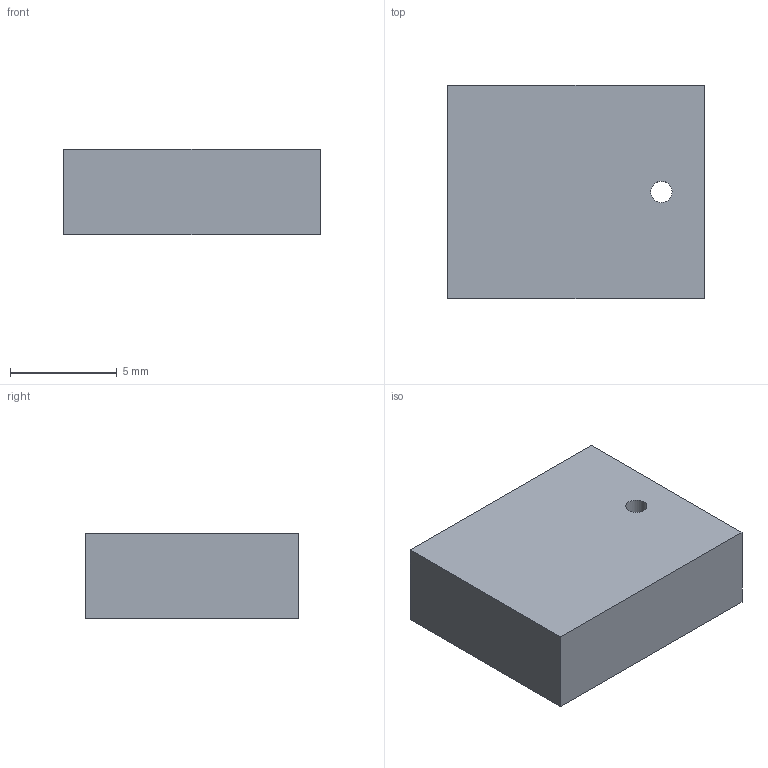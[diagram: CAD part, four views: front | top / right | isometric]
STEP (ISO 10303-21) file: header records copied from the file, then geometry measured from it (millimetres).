
FILE_DESCRIPTION(('Open CASCADE Model'),'2;1');
FILE_NAME('Open CASCADE Shape Model','2000-01-01T00:00:00',('Author'),( 'Open CASCADE'),'Open CASCADE STEP processor 7.9','Open CASCADE 7.9' ,'Unknown');
FILE_SCHEMA(('AUTOMOTIVE_DESIGN { 1 0 10303 214 1 1 1 1 }'));
Length unit declared in the file: millimetre
Products named in the file (1): Open CASCADE STEP translator 7.9 1
Bounding box: 12 x 10 x 4 mm (x, y, z)
Volume: 476.9 mm3; surface area: 427 mm2
Topology: 1 solids, 1 shells, 7 faces, 15 edges, 10 vertices
Faces by surface type: plane 6, cylinder 1
Full cylindrical faces by diameter (mm): 1 x1
Entity records: 400 total; most frequent: CARTESIAN_POINT 63, DIRECTION 63, LINE 41, VECTOR 41, ORIENTED_EDGE 30, PCURVE 30, DEFINITIONAL_REPRESENTATION 30, EDGE_CURVE 15
